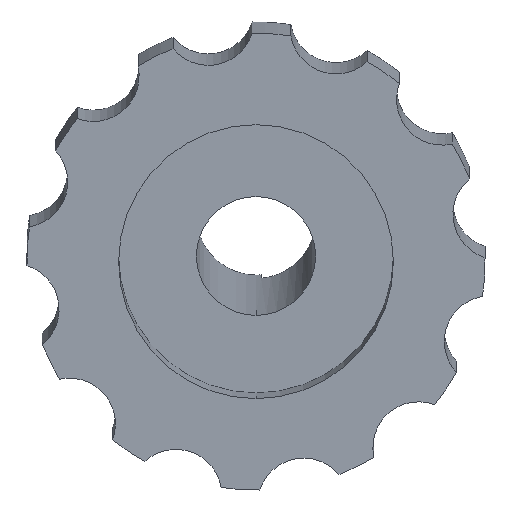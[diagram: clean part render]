
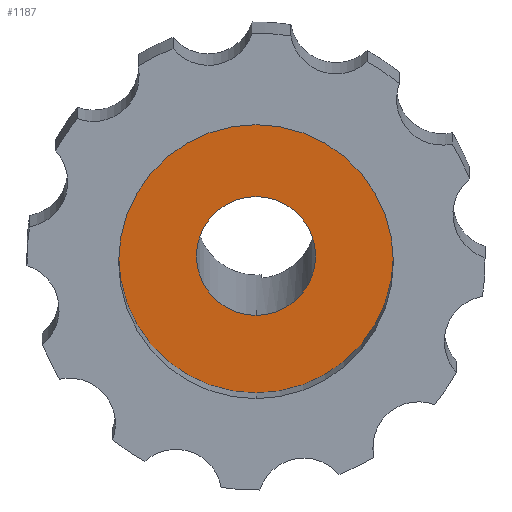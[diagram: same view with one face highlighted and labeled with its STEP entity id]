
A CAD part, left-side view. The second image highlights one B-rep face of the part: STEP entity #1187.
In plain terms, the highlighted planar face has unit normal (-0.997, 0, -0.077).
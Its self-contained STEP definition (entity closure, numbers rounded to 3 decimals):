
#349=CARTESIAN_POINT('',(2.653,0.,-187.485));
#350=DIRECTION('',(0.997,0.,0.077));
#351=DIRECTION('',(0.077,0.,-0.997));
#352=AXIS2_PLACEMENT_3D('',#349,#350,#351);
#354=CARTESIAN_POINT('',(2.653,0.,-187.485));
#355=DIRECTION('',(0.997,0.,0.077));
#356=DIRECTION('',(-0.077,0.,0.997));
#357=AXIS2_PLACEMENT_3D('',#354,#355,#356);
#359=CARTESIAN_POINT('',(2.653,0.,-187.485));
#360=DIRECTION('',(-0.997,0.,-0.077));
#361=DIRECTION('',(-0.077,0.,0.997));
#362=AXIS2_PLACEMENT_3D('',#359,#360,#361);
#364=CARTESIAN_POINT('',(2.653,0.,-187.485));
#365=DIRECTION('',(-0.997,0.,-0.077));
#366=DIRECTION('',(0.077,0.,-0.997));
#367=AXIS2_PLACEMENT_3D('',#364,#365,#366);
#689=CARTESIAN_POINT('',(2.402,0.,-184.245));
#690=VERTEX_POINT('',#689);
#691=CARTESIAN_POINT('',(2.904,0.,-190.725));
#692=VERTEX_POINT('',#691);
#693=CARTESIAN_POINT('',(3.232,0.,-194.963));
#694=CARTESIAN_POINT('',(2.073,0.,-180.008));
#695=VERTEX_POINT('',#693);
#696=VERTEX_POINT('',#694);
#1173=CARTESIAN_POINT('',(2.653,0.,-187.485));
#1174=DIRECTION('',(0.997,0.,0.077));
#1175=DIRECTION('',(0.077,0.,-0.997));
#1176=AXIS2_PLACEMENT_3D('',#1173,#1174,#1175);
#1177=PLANE('',#1176);
#1178=ORIENTED_EDGE('',*,*,#1153,.T.);
#1179=ORIENTED_EDGE('',*,*,#1167,.T.);
#1180=EDGE_LOOP('',(#1178,#1179));
#1181=FACE_OUTER_BOUND('',#1180,.F.);
#1182=ORIENTED_EDGE('',*,*,#745,.T.);
#1184=ORIENTED_EDGE('',*,*,#1183,.T.);
#1185=EDGE_LOOP('',(#1182,#1184));
#1186=FACE_BOUND('',#1185,.F.);
#1187=ADVANCED_FACE('',(#1181,#1186),#1177,.F.);
#353=CIRCLE('',#352,7.5);
#358=CIRCLE('',#357,7.5);
#363=CIRCLE('',#362,3.25);
#368=CIRCLE('',#367,3.25);
#745=EDGE_CURVE('',#690,#692,#363,.T.);
#1153=EDGE_CURVE('',#695,#696,#353,.T.);
#1167=EDGE_CURVE('',#696,#695,#358,.T.);
#1183=EDGE_CURVE('',#692,#690,#368,.T.);
